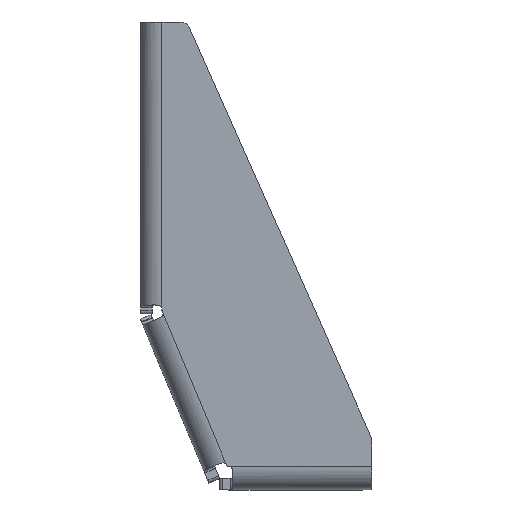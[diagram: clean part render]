
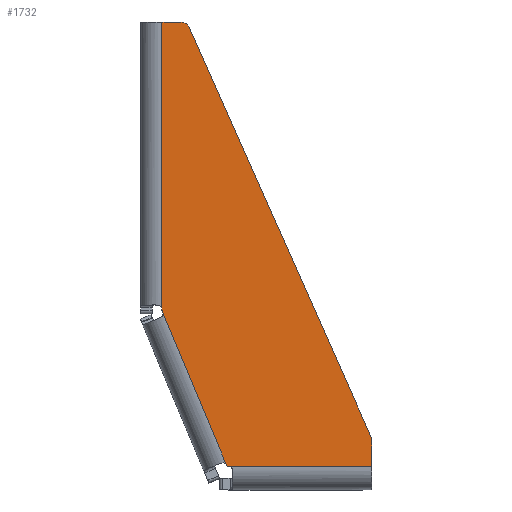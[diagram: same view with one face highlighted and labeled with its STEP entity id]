
A CAD part, top view. The second image highlights one B-rep face of the part: STEP entity #1732.
In plain terms, the highlighted planar face has unit normal (0, 0, 1).
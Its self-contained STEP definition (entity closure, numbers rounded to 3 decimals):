
#20 = VECTOR ( 'NONE', #1263, 1000. ) ;
#31 = DIRECTION ( 'NONE',  ( 0., -1., 0. ) ) ;
#79 = ORIENTED_EDGE ( 'NONE', *, *, #744, .F. ) ;
#91 = LINE ( 'NONE', #966, #1156 ) ;
#94 = DIRECTION ( 'NONE',  ( -1., 0., 0. ) ) ;
#108 = CARTESIAN_POINT ( 'NONE',  ( 3.825, 26.125, 0. ) ) ;
#121 = EDGE_CURVE ( 'NONE', #132, #396, #2219, .T. ) ;
#125 = DIRECTION ( 'NONE',  ( 1., 0., 0. ) ) ;
#132 = VERTEX_POINT ( 'NONE', #1580 ) ;
#155 = CARTESIAN_POINT ( 'NONE',  ( 14.872, 0.307, 0. ) ) ;
#221 = VERTEX_POINT ( 'NONE', #343 ) ;
#238 = VERTEX_POINT ( 'NONE', #401 ) ;
#248 = VERTEX_POINT ( 'NONE', #1137 ) ;
#284 = EDGE_CURVE ( 'NONE', #396, #238, #1990, .T. ) ;
#316 = CARTESIAN_POINT ( 'NONE',  ( -14.241, 77., 0. ) ) ;
#343 = CARTESIAN_POINT ( 'NONE',  ( 14.807, 0.461, 0. ) ) ;
#354 = ORIENTED_EDGE ( 'NONE', *, *, #1831, .F. ) ;
#396 = VERTEX_POINT ( 'NONE', #1378 ) ;
#401 = CARTESIAN_POINT ( 'NONE',  ( 39.862, 5.31, 0. ) ) ;
#402 = DIRECTION ( 'NONE',  ( 0., 0., -1. ) ) ;
#427 = DIRECTION ( 'NONE',  ( -0.386, 0.922, 0. ) ) ;
#460 = CARTESIAN_POINT ( 'NONE',  ( 15.5, 0., 0. ) ) ;
#485 = PLANE ( 'NONE',  #955 ) ;
#517 = CARTESIAN_POINT ( 'NONE',  ( 4.2, 27.1, 0. ) ) ;
#536 = ORIENTED_EDGE ( 'NONE', *, *, #1516, .F. ) ;
#551 = LINE ( 'NONE', #678, #1496 ) ;
#582 = VERTEX_POINT ( 'NONE', #1209 ) ;
#589 = VERTEX_POINT ( 'NONE', #811 ) ;
#622 = ORIENTED_EDGE ( 'NONE', *, *, #1402, .T. ) ;
#677 = CARTESIAN_POINT ( 'NONE',  ( 3.893, 26.539, 0. ) ) ;
#678 = CARTESIAN_POINT ( 'NONE',  ( 3.7, 26.125, 0. ) ) ;
#696 = DIRECTION ( 'NONE',  ( -1., 0., 0. ) ) ;
#704 = AXIS2_PLACEMENT_3D ( 'NONE', #2489, #1285, #94 ) ;
#705 = DIRECTION ( 'NONE',  ( 0., 0., -1. ) ) ;
#724 = DIRECTION ( 'NONE',  ( -1., 0., 0. ) ) ;
#744 = EDGE_CURVE ( 'NONE', #1859, #2472, #2208, .T. ) ;
#751 = VERTEX_POINT ( 'NONE', #677 ) ;
#773 = DIRECTION ( 'NONE',  ( -0.386, 0.922, 0. ) ) ;
#779 = ORIENTED_EDGE ( 'NONE', *, *, #941, .F. ) ;
#811 = CARTESIAN_POINT ( 'NONE',  ( 3.7, 27.5, 0. ) ) ;
#845 = EDGE_CURVE ( 'NONE', #2153, #1859, #954, .T. ) ;
#860 = LINE ( 'NONE', #1026, #1823 ) ;
#876 = VERTEX_POINT ( 'NONE', #1694 ) ;
#881 = DIRECTION ( 'NONE',  ( 0., -1., 0. ) ) ;
#941 = EDGE_CURVE ( 'NONE', #248, #132, #2237, .T. ) ;
#954 = LINE ( 'NONE', #1725, #1414 ) ;
#955 = AXIS2_PLACEMENT_3D ( 'NONE', #108, #705, #2119 ) ;
#966 = CARTESIAN_POINT ( 'NONE',  ( 14.872, 0.307, 0. ) ) ;
#979 = CARTESIAN_POINT ( 'NONE',  ( 6.96, 75.4, 0. ) ) ;
#1015 = CARTESIAN_POINT ( 'NONE',  ( 40., 4.66, 0. ) ) ;
#1026 = CARTESIAN_POINT ( 'NONE',  ( 3.893, 26.539, 0. ) ) ;
#1047 = CARTESIAN_POINT ( 'NONE',  ( 4.03, 26.211, 0. ) ) ;
#1080 = LINE ( 'NONE', #1047, #20 ) ;
#1127 = EDGE_CURVE ( 'NONE', #2472, #221, #91, .T. ) ;
#1137 = CARTESIAN_POINT ( 'NONE',  ( 3.7, 77., 0. ) ) ;
#1156 = VECTOR ( 'NONE', #773, 1000. ) ;
#1184 = DIRECTION ( 'NONE',  ( 0., 0., -1. ) ) ;
#1209 = CARTESIAN_POINT ( 'NONE',  ( 40., 4.66, 0. ) ) ;
#1232 = EDGE_CURVE ( 'NONE', #876, #589, #1497, .T. ) ;
#1263 = DIRECTION ( 'NONE',  ( 0.386, -0.922, 0. ) ) ;
#1273 = VECTOR ( 'NONE', #31, 1000. ) ;
#1283 = CARTESIAN_POINT ( 'NONE',  ( 3.739, 26.907, 0. ) ) ;
#1285 = DIRECTION ( 'NONE',  ( 0., 0., -1. ) ) ;
#1287 = ORIENTED_EDGE ( 'NONE', *, *, #845, .F. ) ;
#1358 = VERTEX_POINT ( 'NONE', #2114 ) ;
#1378 = CARTESIAN_POINT ( 'NONE',  ( 8.422, 76.05, 0. ) ) ;
#1402 = EDGE_CURVE ( 'NONE', #2153, #1358, #1597, .T. ) ;
#1411 = ORIENTED_EDGE ( 'NONE', *, *, #1534, .F. ) ;
#1414 = VECTOR ( 'NONE', #696, 1000. ) ;
#1419 = FACE_OUTER_BOUND ( 'NONE', #1443, .T. ) ;
#1443 = EDGE_LOOP ( 'NONE', ( #1287, #622, #354, #536, #2424, #2191, #779, #1444, #2253, #2524, #1411, #1645, #1667, #79 ) ) ;
#1444 = ORIENTED_EDGE ( 'NONE', *, *, #1997, .T. ) ;
#1494 = AXIS2_PLACEMENT_3D ( 'NONE', #517, #1944, #724 ) ;
#1496 = VECTOR ( 'NONE', #881, 1000. ) ;
#1497 = LINE ( 'NONE', #2451, #2503 ) ;
#1516 = EDGE_CURVE ( 'NONE', #238, #582, #2405, .T. ) ;
#1534 = EDGE_CURVE ( 'NONE', #751, #2174, #860, .T. ) ;
#1560 = AXIS2_PLACEMENT_3D ( 'NONE', #1626, #402, #1836 ) ;
#1580 = CARTESIAN_POINT ( 'NONE',  ( 6.96, 77., 0. ) ) ;
#1597 = LINE ( 'NONE', #2321, #2587 ) ;
#1619 = EDGE_CURVE ( 'NONE', #751, #221, #1080, .T. ) ;
#1626 = CARTESIAN_POINT ( 'NONE',  ( 38.4, 4.66, 0. ) ) ;
#1645 = ORIENTED_EDGE ( 'NONE', *, *, #1619, .T. ) ;
#1667 = ORIENTED_EDGE ( 'NONE', *, *, #1127, .F. ) ;
#1694 = CARTESIAN_POINT ( 'NONE',  ( 3.7, 27.1, 0. ) ) ;
#1723 = VECTOR ( 'NONE', #1939, 1000. ) ;
#1725 = CARTESIAN_POINT ( 'NONE',  ( 15.5, 0., 0. ) ) ;
#1732 = ADVANCED_FACE ( 'NONE', ( #1419 ), #485, .F. ) ;
#1774 = EDGE_CURVE ( 'NONE', #2174, #876, #1851, .T. ) ;
#1823 = VECTOR ( 'NONE', #427, 1000. ) ;
#1831 = EDGE_CURVE ( 'NONE', #582, #1358, #1888, .T. ) ;
#1836 = DIRECTION ( 'NONE',  ( -1., 0., 0. ) ) ;
#1851 = CIRCLE ( 'NONE', #1494, 0.5 ) ;
#1859 = VERTEX_POINT ( 'NONE', #2435 ) ;
#1888 = LINE ( 'NONE', #1015, #1273 ) ;
#1939 = DIRECTION ( 'NONE',  ( 1., 0., 0. ) ) ;
#1944 = DIRECTION ( 'NONE',  ( 0., 0., -1. ) ) ;
#1990 = LINE ( 'NONE', #2352, #2569 ) ;
#1997 = EDGE_CURVE ( 'NONE', #248, #589, #551, .T. ) ;
#2000 = AXIS2_PLACEMENT_3D ( 'NONE', #979, #1184, #2192 ) ;
#2114 = CARTESIAN_POINT ( 'NONE',  ( 40., 0., 0. ) ) ;
#2119 = DIRECTION ( 'NONE',  ( -1., 0., 0. ) ) ;
#2153 = VERTEX_POINT ( 'NONE', #460 ) ;
#2174 = VERTEX_POINT ( 'NONE', #1283 ) ;
#2191 = ORIENTED_EDGE ( 'NONE', *, *, #121, .F. ) ;
#2192 = DIRECTION ( 'NONE',  ( -1., 0., 0. ) ) ;
#2208 = CIRCLE ( 'NONE', #704, 0.5 ) ;
#2219 = CIRCLE ( 'NONE', #2000, 1.6 ) ;
#2237 = LINE ( 'NONE', #316, #1723 ) ;
#2253 = ORIENTED_EDGE ( 'NONE', *, *, #1232, .F. ) ;
#2321 = CARTESIAN_POINT ( 'NONE',  ( 3.825, 0., 0. ) ) ;
#2352 = CARTESIAN_POINT ( 'NONE',  ( 8.422, 76.05, 0. ) ) ;
#2361 = DIRECTION ( 'NONE',  ( 0.406, -0.914, 0. ) ) ;
#2405 = CIRCLE ( 'NONE', #1560, 1.6 ) ;
#2424 = ORIENTED_EDGE ( 'NONE', *, *, #284, .F. ) ;
#2435 = CARTESIAN_POINT ( 'NONE',  ( 15.333, 0., 0. ) ) ;
#2444 = DIRECTION ( 'NONE',  ( 0., 1., 0. ) ) ;
#2451 = CARTESIAN_POINT ( 'NONE',  ( 3.7, 27.1, 0. ) ) ;
#2472 = VERTEX_POINT ( 'NONE', #155 ) ;
#2489 = CARTESIAN_POINT ( 'NONE',  ( 15.333, 0.5, 0. ) ) ;
#2503 = VECTOR ( 'NONE', #2444, 1000. ) ;
#2524 = ORIENTED_EDGE ( 'NONE', *, *, #1774, .F. ) ;
#2569 = VECTOR ( 'NONE', #2361, 1000. ) ;
#2587 = VECTOR ( 'NONE', #125, 1000. ) ;
